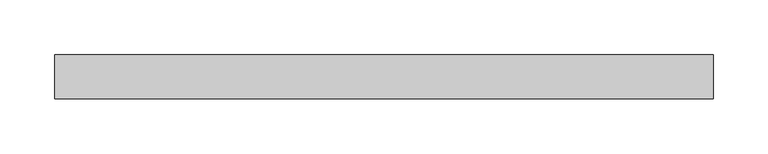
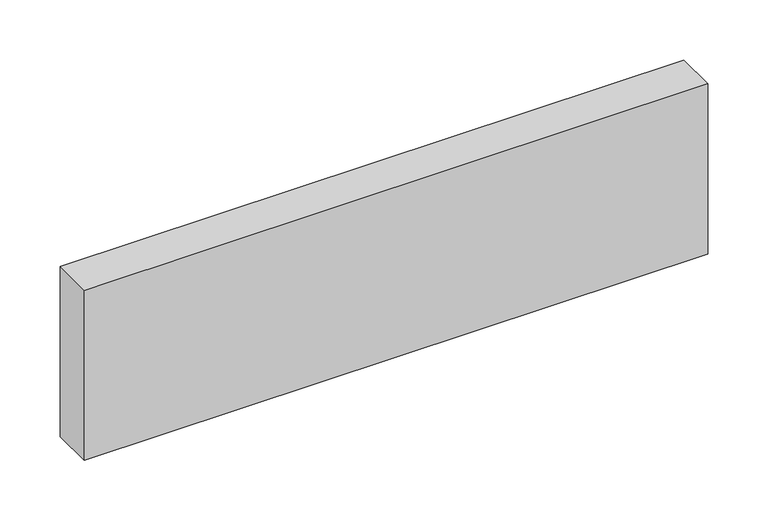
"""IFC4 building model written with IfcOpenShell, lengths in millimetres: plate geometry, Panneau système vide : Epaiss. 4cm."""

from ifc_helpers import new_model, si_unit, origin, origin_with_axes, place, context, project, spatial, polyline, outline, extrude, source, transform, mapped, element, save


def plate_0e49b71f(model_context):
    return source(origin(), model_context, "Body", "SweptSolid", [
        extrude(outline(polyline([(300.0, -20.0), (-300.0, -20.0), (-300.0, 20.0), (300.0, 20.0), (300.0, -20.0)])), origin_with_axes(), (0.0, 0.0, 1.0), 173.3333333),
    ])


if __name__ == "__main__":
    model = new_model("IFC4")
    model_context = context("Model", 3, world=origin())
    ifc_project = project(units=[si_unit("LENGTHUNIT", "METRE", prefix="MILLI")], contexts=[model_context])
    site = spatial("IfcSite", under=ifc_project)
    building = spatial("IfcBuilding", under=site)
    placement = place(None, origin())
    plate_shape = plate_0e49b71f(model_context)
    element("IfcPlate", 1, ObjectType="Panneau système vide : Epaiss. 4cm", at=placement, inside=building, context=model_context, shape_type="MappedRepresentation", body=[
        mapped(plate_shape, transform((0.0, 0.0, 0.0), x_axis=(1.0, 0.0, 0.0), y_axis=(0.0, 1.0, 0.0), z_axis=(0.0, 0.0, 1.0))),
    ])
    save(model, "model.ifc")
